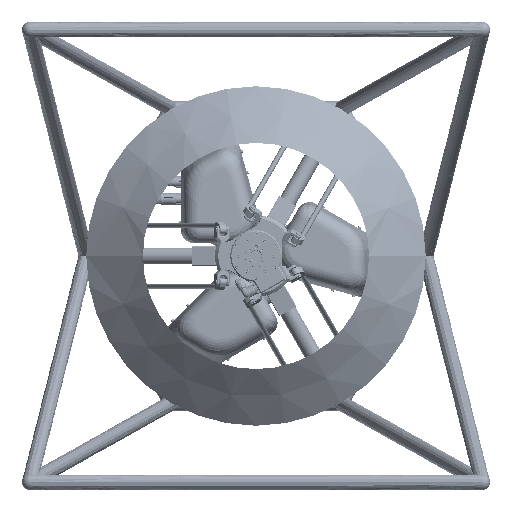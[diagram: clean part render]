
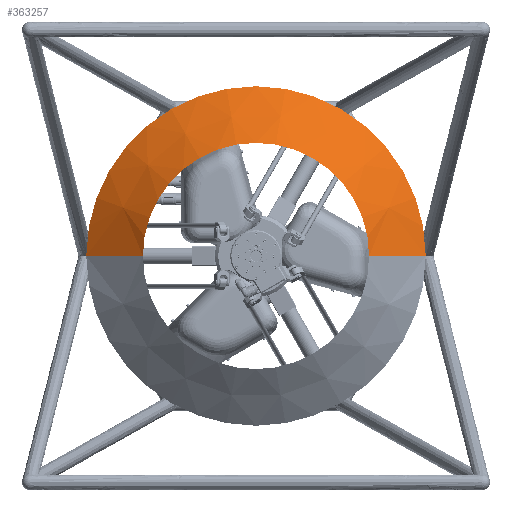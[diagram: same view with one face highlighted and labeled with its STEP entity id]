
A CAD part, front view. The second image highlights one B-rep face of the part: STEP entity #363257.
In plain terms, the highlighted conical face has half-angle 51.34 degrees and reference radius 250 mm.
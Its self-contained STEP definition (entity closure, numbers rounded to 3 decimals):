
#363184=DIRECTION('',(0.781,-0.625,0.));
#363185=VECTOR('',#363184,128.062);
#363186=CARTESIAN_POINT('',(-300.,-555.,0.));
#363187=LINE('',#363186,#363185);
#363188=CARTESIAN_POINT('',(0.,-555.,0.));
#363189=DIRECTION('',(0.,1.,0.));
#363190=DIRECTION('',(-1.,0.,0.));
#363191=AXIS2_PLACEMENT_3D('',#363188,#363189,#363190);
#363193=DIRECTION('',(-0.781,-0.625,0.));
#363194=VECTOR('',#363193,128.062);
#363195=CARTESIAN_POINT('',(300.,-555.,0.));
#363196=LINE('',#363195,#363194);
#363197=CARTESIAN_POINT('',(0.,-635.,0.));
#363198=DIRECTION('',(0.,-1.,0.));
#363199=DIRECTION('',(1.,0.,0.));
#363200=AXIS2_PLACEMENT_3D('',#363197,#363198,#363199);
#363231=CARTESIAN_POINT('',(-300.,-555.,0.));
#363233=VERTEX_POINT('',#363231);
#363234=CARTESIAN_POINT('',(-200.,-635.,0.));
#363235=VERTEX_POINT('',#363234);
#363237=CARTESIAN_POINT('',(300.,-555.,0.));
#363239=VERTEX_POINT('',#363237);
#363240=CARTESIAN_POINT('',(200.,-635.,0.));
#363241=VERTEX_POINT('',#363240);
#363242=CARTESIAN_POINT('',(0.,-595.,0.));
#363243=DIRECTION('',(0.,1.,0.));
#363244=DIRECTION('',(1.,0.,0.));
#363245=AXIS2_PLACEMENT_3D('',#363242,#363243,#363244);
#363246=CONICAL_SURFACE('',#363245,250.,51.34);
#363248=ORIENTED_EDGE('',*,*,#363247,.F.);
#363250=ORIENTED_EDGE('',*,*,#363249,.T.);
#363252=ORIENTED_EDGE('',*,*,#363251,.T.);
#363254=ORIENTED_EDGE('',*,*,#363253,.T.);
#363255=EDGE_LOOP('',(#363248,#363250,#363252,#363254));
#363256=FACE_OUTER_BOUND('',#363255,.F.);
#363257=ADVANCED_FACE('',(#363256),#363246,.T.);
#363192=CIRCLE('',#363191,300.);
#363201=CIRCLE('',#363200,200.);
#363247=EDGE_CURVE('',#363233,#363235,#363187,.T.);
#363249=EDGE_CURVE('',#363233,#363239,#363192,.T.);
#363251=EDGE_CURVE('',#363239,#363241,#363196,.T.);
#363253=EDGE_CURVE('',#363241,#363235,#363201,.T.);
